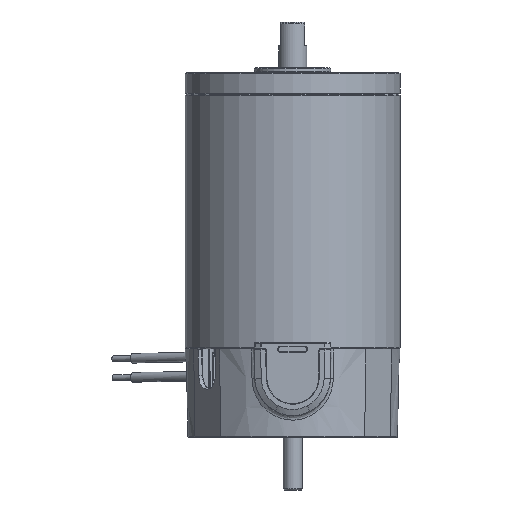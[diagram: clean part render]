
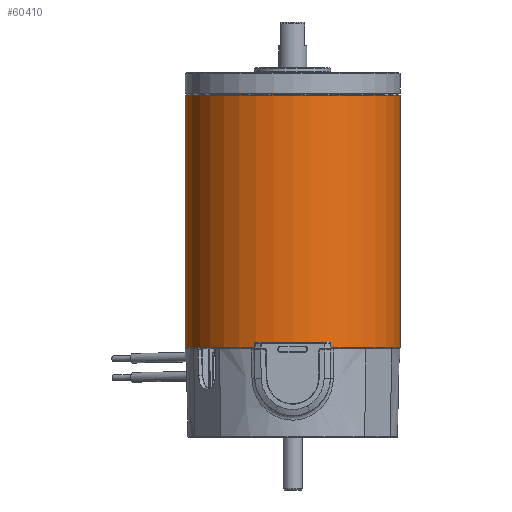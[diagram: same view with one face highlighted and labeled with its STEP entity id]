
A CAD part, front view. The second image highlights one B-rep face of the part: STEP entity #60410.
In plain terms, the highlighted cylindrical face has radius 45 mm (diameter 90 mm), a partial arc.
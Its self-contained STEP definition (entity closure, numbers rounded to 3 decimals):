
#285 = CARTESIAN_POINT ( 'NONE',  ( 45., 0., -136.4 ) ) ;
#844 = ORIENTED_EDGE ( 'NONE', *, *, #33315, .F. ) ;
#1357 = AXIS2_PLACEMENT_3D ( 'NONE', #9086, #57707, #25295 ) ;
#2760 = AXIS2_PLACEMENT_3D ( 'NONE', #17071, #38566, #60075 ) ;
#3548 = LINE ( 'NONE', #14060, #58863 ) ;
#5842 = FACE_OUTER_BOUND ( 'NONE', #68806, .T. ) ;
#5906 = ORIENTED_EDGE ( 'NONE', *, *, #22148, .T. ) ;
#9086 = CARTESIAN_POINT ( 'NONE',  ( 0., 0., -136.4 ) ) ;
#10863 = CIRCLE ( 'NONE', #25494, 45. ) ;
#11581 = LINE ( 'NONE', #33099, #44082 ) ;
#13592 = VERTEX_POINT ( 'NONE', #59773 ) ;
#14060 = CARTESIAN_POINT ( 'NONE',  ( -45., 0., -136.9 ) ) ;
#14711 = EDGE_CURVE ( 'NONE', #20816, #13592, #10863, .T. ) ;
#15105 = DIRECTION ( 'NONE',  ( 0., 0., 1. ) ) ;
#15784 = CARTESIAN_POINT ( 'NONE',  ( -45., 0., -136.4 ) ) ;
#17071 = CARTESIAN_POINT ( 'NONE',  ( 0., 0., -136.9 ) ) ;
#17090 = CIRCLE ( 'NONE', #1357, 45. ) ;
#17542 = ORIENTED_EDGE ( 'NONE', *, *, #14711, .T. ) ;
#20816 = VERTEX_POINT ( 'NONE', #25220 ) ;
#22148 = EDGE_CURVE ( 'NONE', #29363, #52003, #17090, .T. ) ;
#25220 = CARTESIAN_POINT ( 'NONE',  ( 45., 0., -30.75 ) ) ;
#25295 = DIRECTION ( 'NONE',  ( -1., 0., 0. ) ) ;
#25494 = AXIS2_PLACEMENT_3D ( 'NONE', #67949, #62966, #52407 ) ;
#29363 = VERTEX_POINT ( 'NONE', #15784 ) ;
#33099 = CARTESIAN_POINT ( 'NONE',  ( 45., 0., -136.9 ) ) ;
#33315 = EDGE_CURVE ( 'NONE', #29363, #13592, #3548, .T. ) ;
#37652 = ORIENTED_EDGE ( 'NONE', *, *, #68360, .T. ) ;
#38566 = DIRECTION ( 'NONE',  ( 0., 0., 1. ) ) ;
#39049 = DIRECTION ( 'NONE',  ( 0., 0., 1. ) ) ;
#43840 = CYLINDRICAL_SURFACE ( 'NONE', #2760, 45. ) ;
#44082 = VECTOR ( 'NONE', #39049, 1000. ) ;
#52003 = VERTEX_POINT ( 'NONE', #285 ) ;
#52407 = DIRECTION ( 'NONE',  ( -1., 0., 0. ) ) ;
#57707 = DIRECTION ( 'NONE',  ( 0., 0., 1. ) ) ;
#58863 = VECTOR ( 'NONE', #15105, 1000. ) ;
#59773 = CARTESIAN_POINT ( 'NONE',  ( -45., 0., -30.75 ) ) ;
#60075 = DIRECTION ( 'NONE',  ( 1., 0., 0. ) ) ;
#60410 = ADVANCED_FACE ( 'NONE', ( #5842 ), #43840, .T. ) ;
#62966 = DIRECTION ( 'NONE',  ( 0., 0., -1. ) ) ;
#67949 = CARTESIAN_POINT ( 'NONE',  ( 0., 0., -30.75 ) ) ;
#68360 = EDGE_CURVE ( 'NONE', #52003, #20816, #11581, .T. ) ;
#68806 = EDGE_LOOP ( 'NONE', ( #844, #5906, #37652, #17542 ) ) ;
